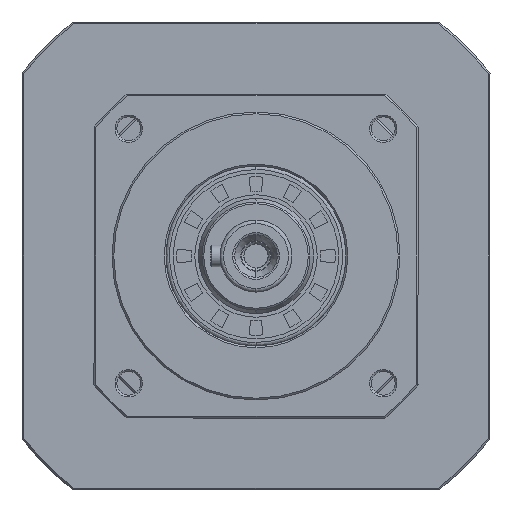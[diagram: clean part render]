
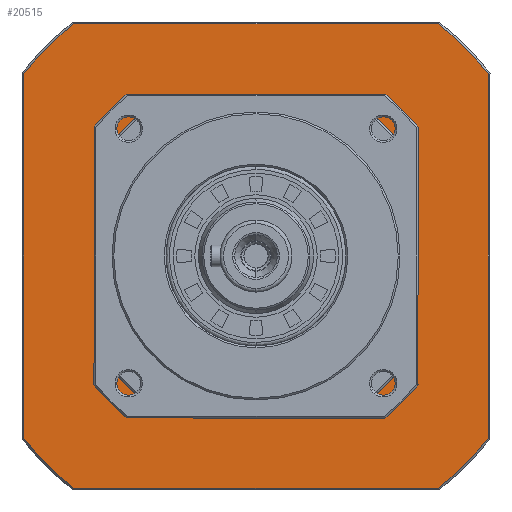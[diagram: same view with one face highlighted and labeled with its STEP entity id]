
A CAD part, left-side view. The second image highlights one B-rep face of the part: STEP entity #20515.
In plain terms, the highlighted planar face has unit normal (-1, 0, 0).
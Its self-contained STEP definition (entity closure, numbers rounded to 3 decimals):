
#437 = LINE ( 'NONE', #13124, #77217 ) ;
#1507 = ORIENTED_EDGE ( 'NONE', *, *, #21379, .T. ) ;
#4282 = FACE_BOUND ( 'NONE', #42181, .T. ) ;
#4793 = CARTESIAN_POINT ( 'NONE',  ( 88.5, -44.5, 0. ) ) ;
#5287 = ORIENTED_EDGE ( 'NONE', *, *, #58262, .T. ) ;
#5933 = VECTOR ( 'NONE', #86390, 1000. ) ;
#6423 = ORIENTED_EDGE ( 'NONE', *, *, #96072, .T. ) ;
#6835 = AXIS2_PLACEMENT_3D ( 'NONE', #26291, #79304, #26602 ) ;
#7058 = EDGE_CURVE ( 'NONE', #84327, #80844, #9087, .T. ) ;
#7490 = EDGE_CURVE ( 'NONE', #43419, #29068, #60153, .T. ) ;
#9087 = CIRCLE ( 'NONE', #64111, 82. ) ;
#9116 = DIRECTION ( 'NONE',  ( 0., 0., 1. ) ) ;
#9417 = ORIENTED_EDGE ( 'NONE', *, *, #24229, .T. ) ;
#9614 = ORIENTED_EDGE ( 'NONE', *, *, #71568, .T. ) ;
#10071 = CARTESIAN_POINT ( 'NONE',  ( 88.5, 0., 0. ) ) ;
#10414 = DIRECTION ( 'NONE',  ( 1., 0., 0. ) ) ;
#10431 = DIRECTION ( 'NONE',  ( 0., 0., -1. ) ) ;
#10648 = CARTESIAN_POINT ( 'NONE',  ( 88.5, 50.633, 64.5 ) ) ;
#12091 = DIRECTION ( 'NONE',  ( 0., 0., 1. ) ) ;
#13124 = CARTESIAN_POINT ( 'NONE',  ( 88.5, 64.5, 0. ) ) ;
#13172 = CARTESIAN_POINT ( 'NONE',  ( 88.5, 0., 64.5 ) ) ;
#16050 = VECTOR ( 'NONE', #55835, 1000. ) ;
#16220 = DIRECTION ( 'NONE',  ( 0., 0., -1. ) ) ;
#17214 = AXIS2_PLACEMENT_3D ( 'NONE', #59476, #81240, #22697 ) ;
#18512 = VECTOR ( 'NONE', #35540, 1000. ) ;
#18514 = ORIENTED_EDGE ( 'NONE', *, *, #7058, .T. ) ;
#19542 = CARTESIAN_POINT ( 'NONE',  ( 88.5, 0., 0. ) ) ;
#19831 = VERTEX_POINT ( 'NONE', #23593 ) ;
#20163 = CARTESIAN_POINT ( 'NONE',  ( 88.5, 0., -44.5 ) ) ;
#20515 = ADVANCED_FACE ( 'NONE', ( #4282, #91518 ), #48490, .F. ) ;
#21379 = EDGE_CURVE ( 'NONE', #85819, #19831, #25095, .T. ) ;
#21621 = DIRECTION ( 'NONE',  ( 0., -1., 0. ) ) ;
#21828 = ORIENTED_EDGE ( 'NONE', *, *, #76662, .F. ) ;
#22087 = CARTESIAN_POINT ( 'NONE',  ( 88.5, -50.633, -64.5 ) ) ;
#22342 = CARTESIAN_POINT ( 'NONE',  ( 88.5, -44.5, 23.875 ) ) ;
#22697 = DIRECTION ( 'NONE',  ( 0., 0., 1. ) ) ;
#23593 = CARTESIAN_POINT ( 'NONE',  ( 88.5, 44.5, -23.875 ) ) ;
#23843 = VERTEX_POINT ( 'NONE', #82219 ) ;
#24229 = EDGE_CURVE ( 'NONE', #80844, #66592, #66685, .T. ) ;
#24840 = AXIS2_PLACEMENT_3D ( 'NONE', #10071, #10414, #9116 ) ;
#25095 = CIRCLE ( 'NONE', #24840, 50.5 ) ;
#26291 = CARTESIAN_POINT ( 'NONE',  ( 88.5, 0., 0. ) ) ;
#26602 = DIRECTION ( 'NONE',  ( 0., 0., 1. ) ) ;
#27196 = VERTEX_POINT ( 'NONE', #22342 ) ;
#28459 = CIRCLE ( 'NONE', #50257, 82. ) ;
#29068 = VERTEX_POINT ( 'NONE', #91137 ) ;
#29133 = CARTESIAN_POINT ( 'NONE',  ( 88.5, 64.5, -50.633 ) ) ;
#29447 = ORIENTED_EDGE ( 'NONE', *, *, #41936, .T. ) ;
#34012 = VERTEX_POINT ( 'NONE', #58128 ) ;
#34252 = AXIS2_PLACEMENT_3D ( 'NONE', #81430, #36851, #96348 ) ;
#35540 = DIRECTION ( 'NONE',  ( 0., 1., 0. ) ) ;
#36185 = LINE ( 'NONE', #20163, #43211 ) ;
#36851 = DIRECTION ( 'NONE',  ( -1., 0., 0. ) ) ;
#37321 = DIRECTION ( 'NONE',  ( -1., 0., 0. ) ) ;
#37906 = CARTESIAN_POINT ( 'NONE',  ( 88.5, 50.633, -64.5 ) ) ;
#39760 = CARTESIAN_POINT ( 'NONE',  ( 88.5, -23.875, -44.5 ) ) ;
#39793 = EDGE_CURVE ( 'NONE', #90475, #58698, #65307, .T. ) ;
#40290 = DIRECTION ( 'NONE',  ( -1., 0., 0. ) ) ;
#40529 = VERTEX_POINT ( 'NONE', #58014 ) ;
#41936 = EDGE_CURVE ( 'NONE', #23843, #34012, #62351, .T. ) ;
#42063 = CARTESIAN_POINT ( 'NONE',  ( 88.5, 44.5, 0. ) ) ;
#42181 = EDGE_LOOP ( 'NONE', ( #1507, #65318, #9614, #66440, #68362, #21828, #96513, #70122 ) ) ;
#42665 = DIRECTION ( 'NONE',  ( 0., 0., -1. ) ) ;
#43211 = VECTOR ( 'NONE', #58526, 1000. ) ;
#43419 = VERTEX_POINT ( 'NONE', #64436 ) ;
#45769 = ORIENTED_EDGE ( 'NONE', *, *, #51244, .T. ) ;
#46888 = VECTOR ( 'NONE', #21621, 1000. ) ;
#47413 = CIRCLE ( 'NONE', #17214, 50.5 ) ;
#48490 = PLANE ( 'NONE',  #78979 ) ;
#48913 = CARTESIAN_POINT ( 'NONE',  ( 88.5, 23.875, -44.5 ) ) ;
#49355 = DIRECTION ( 'NONE',  ( 0., 0., -1. ) ) ;
#49849 = LINE ( 'NONE', #63020, #16050 ) ;
#50257 = AXIS2_PLACEMENT_3D ( 'NONE', #93849, #79573, #49355 ) ;
#50305 = ORIENTED_EDGE ( 'NONE', *, *, #65525, .T. ) ;
#51244 = EDGE_CURVE ( 'NONE', #92604, #23843, #49849, .T. ) ;
#52009 = VECTOR ( 'NONE', #76288, 1000. ) ;
#52191 = VECTOR ( 'NONE', #57395, 1000. ) ;
#53547 = CARTESIAN_POINT ( 'NONE',  ( 88.5, 0., 44.5 ) ) ;
#53831 = EDGE_LOOP ( 'NONE', ( #18514, #9417, #5287, #45769, #29447, #6423, #91162, #50305 ) ) ;
#54664 = CARTESIAN_POINT ( 'NONE',  ( 88.5, 0., 0. ) ) ;
#55835 = DIRECTION ( 'NONE',  ( 0., 0., 1. ) ) ;
#57395 = DIRECTION ( 'NONE',  ( 0., 0., -1. ) ) ;
#58014 = CARTESIAN_POINT ( 'NONE',  ( 88.5, -44.5, -23.875 ) ) ;
#58084 = LINE ( 'NONE', #13172, #18512 ) ;
#58128 = CARTESIAN_POINT ( 'NONE',  ( 88.5, -50.633, 64.5 ) ) ;
#58262 = EDGE_CURVE ( 'NONE', #66592, #92604, #28459, .T. ) ;
#58526 = DIRECTION ( 'NONE',  ( 0., -1., 0. ) ) ;
#58698 = VERTEX_POINT ( 'NONE', #90594 ) ;
#59476 = CARTESIAN_POINT ( 'NONE',  ( 88.5, 0., 0. ) ) ;
#60153 = LINE ( 'NONE', #53547, #52009 ) ;
#60613 = EDGE_CURVE ( 'NONE', #75473, #19831, #92858, .T. ) ;
#62351 = CIRCLE ( 'NONE', #82978, 82. ) ;
#63020 = CARTESIAN_POINT ( 'NONE',  ( 88.5, -64.5, 0. ) ) ;
#64111 = AXIS2_PLACEMENT_3D ( 'NONE', #82231, #37321, #16220 ) ;
#64427 = CARTESIAN_POINT ( 'NONE',  ( 88.5, -64.5, 64.5 ) ) ;
#64436 = CARTESIAN_POINT ( 'NONE',  ( 88.5, -23.875, 44.5 ) ) ;
#65307 = CIRCLE ( 'NONE', #34252, 82. ) ;
#65318 = ORIENTED_EDGE ( 'NONE', *, *, #60613, .F. ) ;
#65330 = LINE ( 'NONE', #4793, #5933 ) ;
#65525 = EDGE_CURVE ( 'NONE', #58698, #84327, #437, .T. ) ;
#65569 = AXIS2_PLACEMENT_3D ( 'NONE', #19542, #71569, #12091 ) ;
#66440 = ORIENTED_EDGE ( 'NONE', *, *, #7490, .F. ) ;
#66592 = VERTEX_POINT ( 'NONE', #22087 ) ;
#66685 = LINE ( 'NONE', #88903, #46888 ) ;
#68362 = ORIENTED_EDGE ( 'NONE', *, *, #72537, .T. ) ;
#70122 = ORIENTED_EDGE ( 'NONE', *, *, #94471, .F. ) ;
#70740 = VERTEX_POINT ( 'NONE', #39760 ) ;
#71568 = EDGE_CURVE ( 'NONE', #75473, #29068, #47413, .T. ) ;
#71569 = DIRECTION ( 'NONE',  ( -1., 0., 0. ) ) ;
#72537 = EDGE_CURVE ( 'NONE', #43419, #27196, #79851, .T. ) ;
#75231 = EDGE_CURVE ( 'NONE', #70740, #40529, #86353, .T. ) ;
#75473 = VERTEX_POINT ( 'NONE', #84787 ) ;
#76288 = DIRECTION ( 'NONE',  ( 0., 1., 0. ) ) ;
#76662 = EDGE_CURVE ( 'NONE', #40529, #27196, #65330, .T. ) ;
#77217 = VECTOR ( 'NONE', #42665, 1000. ) ;
#78385 = DIRECTION ( 'NONE',  ( 0., 0., -1. ) ) ;
#78685 = DIRECTION ( 'NONE',  ( 1., 0., 0. ) ) ;
#78979 = AXIS2_PLACEMENT_3D ( 'NONE', #64427, #78685, #78385 ) ;
#79304 = DIRECTION ( 'NONE',  ( 1., 0., 0. ) ) ;
#79573 = DIRECTION ( 'NONE',  ( -1., 0., 0. ) ) ;
#79851 = CIRCLE ( 'NONE', #6835, 50.5 ) ;
#80844 = VERTEX_POINT ( 'NONE', #37906 ) ;
#81240 = DIRECTION ( 'NONE',  ( 1., 0., 0. ) ) ;
#81430 = CARTESIAN_POINT ( 'NONE',  ( 88.5, 0., 0. ) ) ;
#82219 = CARTESIAN_POINT ( 'NONE',  ( 88.5, -64.5, 50.633 ) ) ;
#82231 = CARTESIAN_POINT ( 'NONE',  ( 88.5, 0., 0. ) ) ;
#82978 = AXIS2_PLACEMENT_3D ( 'NONE', #54664, #40290, #10431 ) ;
#84327 = VERTEX_POINT ( 'NONE', #29133 ) ;
#84787 = CARTESIAN_POINT ( 'NONE',  ( 88.5, 44.5, 23.875 ) ) ;
#85819 = VERTEX_POINT ( 'NONE', #48913 ) ;
#86353 = CIRCLE ( 'NONE', #65569, 50.5 ) ;
#86390 = DIRECTION ( 'NONE',  ( 0., 0., 1. ) ) ;
#88903 = CARTESIAN_POINT ( 'NONE',  ( 88.5, 0., -64.5 ) ) ;
#90475 = VERTEX_POINT ( 'NONE', #10648 ) ;
#90594 = CARTESIAN_POINT ( 'NONE',  ( 88.5, 64.5, 50.633 ) ) ;
#91137 = CARTESIAN_POINT ( 'NONE',  ( 88.5, 23.875, 44.5 ) ) ;
#91162 = ORIENTED_EDGE ( 'NONE', *, *, #39793, .T. ) ;
#91518 = FACE_OUTER_BOUND ( 'NONE', #53831, .T. ) ;
#92604 = VERTEX_POINT ( 'NONE', #94843 ) ;
#92858 = LINE ( 'NONE', #42063, #52191 ) ;
#93849 = CARTESIAN_POINT ( 'NONE',  ( 88.5, 0., 0. ) ) ;
#94471 = EDGE_CURVE ( 'NONE', #85819, #70740, #36185, .T. ) ;
#94843 = CARTESIAN_POINT ( 'NONE',  ( 88.5, -64.5, -50.633 ) ) ;
#96072 = EDGE_CURVE ( 'NONE', #34012, #90475, #58084, .T. ) ;
#96348 = DIRECTION ( 'NONE',  ( 0., 0., -1. ) ) ;
#96513 = ORIENTED_EDGE ( 'NONE', *, *, #75231, .F. ) ;
